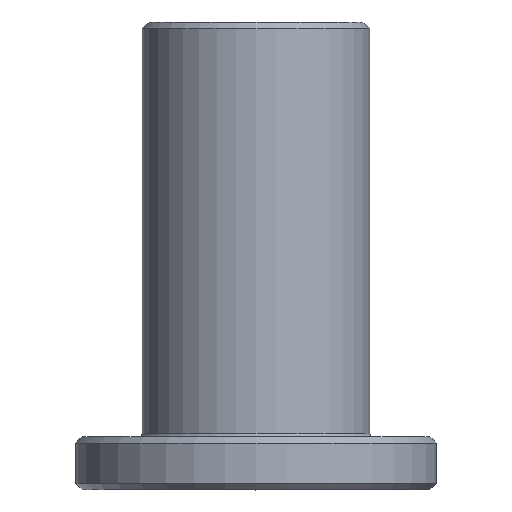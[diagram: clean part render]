
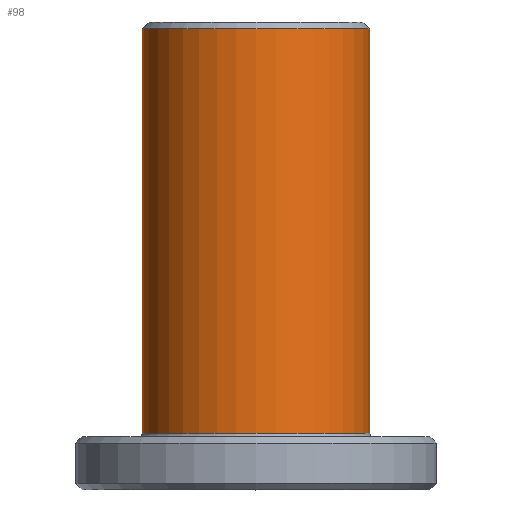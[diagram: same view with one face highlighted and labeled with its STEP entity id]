
A CAD part, front view. The second image highlights one B-rep face of the part: STEP entity #98.
In plain terms, the highlighted cylindrical face has radius 17 mm (diameter 34 mm), a full revolution.
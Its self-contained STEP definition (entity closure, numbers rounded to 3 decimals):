
#98=ADVANCED_FACE('',(#195,#196),#197,.T.);
#195=FACE_OUTER_BOUND('',#351,.T.);
#196=FACE_OUTER_BOUND('',#352,.T.);
#197=CYLINDRICAL_SURFACE('',#353,17.0);
#351=EDGE_LOOP('',(#598));
#352=EDGE_LOOP('',(#599));
#353=AXIS2_PLACEMENT_3D('',#600,#601,#602);
#598=ORIENTED_EDGE('',*,*,#872,.F.);
#599=ORIENTED_EDGE('',*,*,#869,.T.);
#600=CARTESIAN_POINT('',(0.0,0.0,38.75));
#601=DIRECTION('',(0.,-0.0,1.0));
#602=DIRECTION('',(0.0,1.0,0.0));
#869=EDGE_CURVE('',#1019,#1019,#1020,.T.);
#872=EDGE_CURVE('',#1025,#1025,#1026,.T.);
#1019=VERTEX_POINT('',#1215);
#1020=CIRCLE('',#1216,17.0);
#1025=VERTEX_POINT('',#1221);
#1026=CIRCLE('',#1222,17.0);
#1215=CARTESIAN_POINT('',(0.0,17.0,8.5));
#1216=AXIS2_PLACEMENT_3D('',#1429,#1430,#1431);
#1221=CARTESIAN_POINT('',(0.,17.0,69.0));
#1222=AXIS2_PLACEMENT_3D('',#1438,#1439,#1440);
#1429=CARTESIAN_POINT('',(0.0,0.0,8.5));
#1430=DIRECTION('',(0.,-0.0,1.0));
#1431=DIRECTION('',(0.0,1.0,0.0));
#1438=CARTESIAN_POINT('',(0.,0.0,69.0));
#1439=DIRECTION('',(0.,-0.0,1.0));
#1440=DIRECTION('',(0.0,1.0,0.0));
